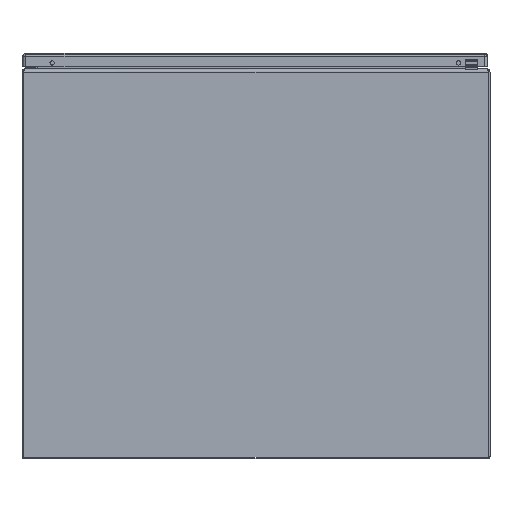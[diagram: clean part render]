
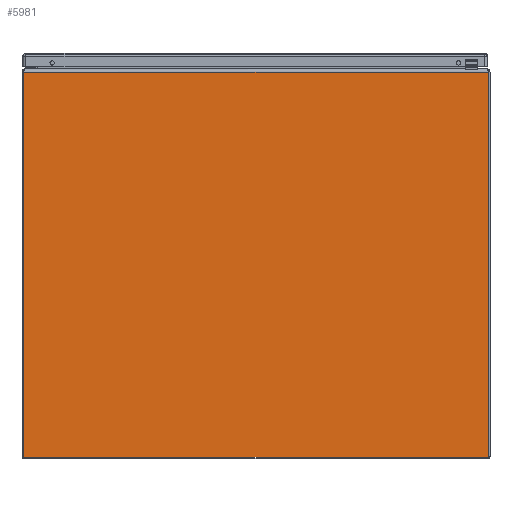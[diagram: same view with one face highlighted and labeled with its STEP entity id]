
A CAD part, front view. The second image highlights one B-rep face of the part: STEP entity #5981.
In plain terms, the highlighted planar face has unit normal (0, -1, 0).
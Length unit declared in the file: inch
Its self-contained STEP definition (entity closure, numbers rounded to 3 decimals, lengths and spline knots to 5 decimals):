
#4630 = ORIENTED_EDGE ( 'NONE', *, *, #30680, .F. ) ;
#4669 = ORIENTED_EDGE ( 'NONE', *, *, #30679, .F. ) ;
#4738 = ORIENTED_EDGE ( 'NONE', *, *, #30677, .T. ) ;
#4772 = ORIENTED_EDGE ( 'NONE', *, *, #30681, .T. ) ;
#5981 = ADVANCED_FACE ( 'NONE', ( #26189 ), #27153, .T. ) ;
#6277 = AXIS2_PLACEMENT_3D ( 'NONE', #27151, #27156, #27157 ) ;
#13440 = EDGE_LOOP ( 'NONE', ( #4630, #4669, #4738, #4772 ) ) ;
#15048 = VERTEX_POINT ( 'NONE', #28647 ) ;
#15075 = VERTEX_POINT ( 'NONE', #28674 ) ;
#15381 = VERTEX_POINT ( 'NONE', #28980 ) ;
#15437 = VERTEX_POINT ( 'NONE', #29036 ) ;
#26189 = FACE_OUTER_BOUND ( 'NONE', #13440, .T. ) ;
#27151 = CARTESIAN_POINT ( 'NONE',  ( 12., 0., 0.08 ) ) ;
#27153 = PLANE ( 'NONE',  #6277 ) ;
#27156 = DIRECTION ( 'NONE',  ( 0., -1., 0. ) ) ;
#27157 = DIRECTION ( 'NONE',  ( 0., 0., -1. ) ) ;
#28647 = CARTESIAN_POINT ( 'NONE',  ( 11.921, 0., 19.838 ) ) ;
#28674 = CARTESIAN_POINT ( 'NONE',  ( -11.921, 0., 19.838 ) ) ;
#28980 = CARTESIAN_POINT ( 'NONE',  ( -11.921, 0., 0.08 ) ) ;
#29036 = CARTESIAN_POINT ( 'NONE',  ( 11.921, 0., 0.08 ) ) ;
#30677 = EDGE_CURVE ( 'NONE', #15048, #15075, #43442, .T. ) ;
#30679 = EDGE_CURVE ( 'NONE', #15048, #15437, #43444, .T. ) ;
#30680 = EDGE_CURVE ( 'NONE', #15437, #15381, #43443, .T. ) ;
#30681 = EDGE_CURVE ( 'NONE', #15075, #15381, #43441, .T. ) ;
#43007 = CARTESIAN_POINT ( 'NONE',  ( 12., 0., 19.838 ) ) ;
#43009 = DIRECTION ( 'NONE',  ( -1., 0., 0. ) ) ;
#43010 = CARTESIAN_POINT ( 'NONE',  ( 12., 0., 0.08 ) ) ;
#43014 = CARTESIAN_POINT ( 'NONE',  ( 11.921, 0., 0.08 ) ) ;
#43015 = DIRECTION ( 'NONE',  ( 0., 0., -1. ) ) ;
#43016 = CARTESIAN_POINT ( 'NONE',  ( -11.921, 0., 20.569 ) ) ;
#43017 = DIRECTION ( 'NONE',  ( -1., 0., 0. ) ) ;
#43019 = DIRECTION ( 'NONE',  ( 0., 0., -1. ) ) ;
#43437 = VECTOR ( 'NONE', #43015, 39.37008 ) ;
#43439 = VECTOR ( 'NONE', #43009, 39.37008 ) ;
#43441 = LINE ( 'NONE', #43016, #43448 ) ;
#43442 = LINE ( 'NONE', #43007, #43439 ) ;
#43443 = LINE ( 'NONE', #43010, #43446 ) ;
#43444 = LINE ( 'NONE', #43014, #43437 ) ;
#43446 = VECTOR ( 'NONE', #43017, 39.37008 ) ;
#43448 = VECTOR ( 'NONE', #43019, 39.37008 ) ;
